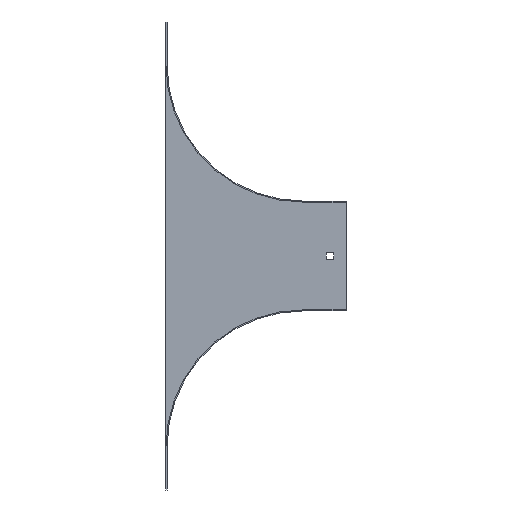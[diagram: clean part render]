
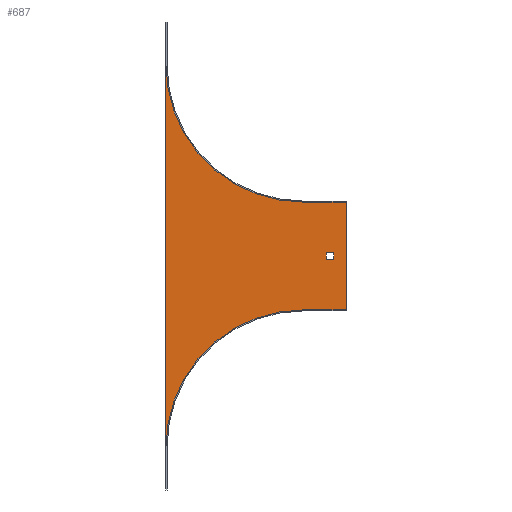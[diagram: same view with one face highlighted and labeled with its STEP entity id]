
A CAD part, front view. The second image highlights one B-rep face of the part: STEP entity #687.
In plain terms, the highlighted planar face has unit normal (0, -1, 0).
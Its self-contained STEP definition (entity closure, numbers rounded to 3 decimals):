
#2 = ORIENTED_EDGE ( 'NONE', *, *, #501, .F. ) ;
#5 = VERTEX_POINT ( 'NONE', #366 ) ;
#13 = EDGE_CURVE ( 'NONE', #684, #5, #578, .T. ) ;
#19 = CARTESIAN_POINT ( 'NONE',  ( 0., -1., -180. ) ) ;
#21 = EDGE_CURVE ( 'NONE', #121, #443, #522, .T. ) ;
#25 = DIRECTION ( 'NONE',  ( 0., 0., -1. ) ) ;
#29 = VERTEX_POINT ( 'NONE', #311 ) ;
#44 = EDGE_CURVE ( 'NONE', #287, #676, #713, .T. ) ;
#52 = VECTOR ( 'NONE', #433, 1000. ) ;
#66 = FACE_BOUND ( 'NONE', #358, .T. ) ;
#68 = DIRECTION ( 'NONE',  ( 0., 0., 1. ) ) ;
#89 = ORIENTED_EDGE ( 'NONE', *, *, #21, .F. ) ;
#94 = ORIENTED_EDGE ( 'NONE', *, *, #348, .F. ) ;
#112 = CARTESIAN_POINT ( 'NONE',  ( 28.5, -1., 0. ) ) ;
#113 = ORIENTED_EDGE ( 'NONE', *, *, #44, .F. ) ;
#121 = VERTEX_POINT ( 'NONE', #208 ) ;
#124 = CARTESIAN_POINT ( 'NONE',  ( 28.5, -1., -174. ) ) ;
#130 = CARTESIAN_POINT ( 'NONE',  ( -127., -1., -394. ) ) ;
#151 = AXIS2_PLACEMENT_3D ( 'NONE', #458, #233, #670 ) ;
#157 = AXIS2_PLACEMENT_3D ( 'NONE', #520, #480, #25 ) ;
#162 = LINE ( 'NONE', #383, #695 ) ;
#180 = ORIENTED_EDGE ( 'NONE', *, *, #612, .F. ) ;
#184 = DIRECTION ( 'NONE',  ( 0., 0., -1. ) ) ;
#187 = LINE ( 'NONE', #353, #313 ) ;
#194 = EDGE_LOOP ( 'NONE', ( #113, #284, #2, #592, #621, #316 ) ) ;
#208 = CARTESIAN_POINT ( 'NONE',  ( 21.5, -1., -180. ) ) ;
#217 = LINE ( 'NONE', #283, #52 ) ;
#229 = EDGE_CURVE ( 'NONE', #676, #690, #409, .T. ) ;
#233 = DIRECTION ( 'NONE',  ( 0., -1., 0. ) ) ;
#254 = EDGE_CURVE ( 'NONE', #690, #684, #678, .T. ) ;
#267 = LINE ( 'NONE', #278, #279 ) ;
#278 = CARTESIAN_POINT ( 'NONE',  ( 21.5, -1., 0. ) ) ;
#279 = VECTOR ( 'NONE', #435, 1000. ) ;
#283 = CARTESIAN_POINT ( 'NONE',  ( 0., -1., -227. ) ) ;
#284 = ORIENTED_EDGE ( 'NONE', *, *, #393, .F. ) ;
#285 = VECTOR ( 'NONE', #597, 1000. ) ;
#287 = VERTEX_POINT ( 'NONE', #296 ) ;
#295 = CARTESIAN_POINT ( 'NONE',  ( -127., -1., -354. ) ) ;
#296 = CARTESIAN_POINT ( 'NONE',  ( 0., -1., -227. ) ) ;
#311 = CARTESIAN_POINT ( 'NONE',  ( 40., -1., -227. ) ) ;
#313 = VECTOR ( 'NONE', #471, 1000. ) ;
#316 = ORIENTED_EDGE ( 'NONE', *, *, #229, .F. ) ;
#348 = EDGE_CURVE ( 'NONE', #618, #655, #187, .T. ) ;
#351 = CARTESIAN_POINT ( 'NONE',  ( -127., -1., 0. ) ) ;
#353 = CARTESIAN_POINT ( 'NONE',  ( 0., -1., -174. ) ) ;
#358 = EDGE_LOOP ( 'NONE', ( #180, #94, #554, #89 ) ) ;
#366 = CARTESIAN_POINT ( 'NONE',  ( 40., -1., -127. ) ) ;
#377 = VECTOR ( 'NONE', #593, 1000. ) ;
#383 = CARTESIAN_POINT ( 'NONE',  ( 40., -1., -126. ) ) ;
#393 = EDGE_CURVE ( 'NONE', #29, #287, #217, .T. ) ;
#409 = LINE ( 'NONE', #130, #646 ) ;
#419 = DIRECTION ( 'NONE',  ( 0., -1., 0. ) ) ;
#425 = DIRECTION ( 'NONE',  ( 1., 0., 0. ) ) ;
#433 = DIRECTION ( 'NONE',  ( -1., 0., 0. ) ) ;
#435 = DIRECTION ( 'NONE',  ( 0., 0., -1. ) ) ;
#443 = VERTEX_POINT ( 'NONE', #496 ) ;
#445 = CARTESIAN_POINT ( 'NONE',  ( 21.5, -1., -174. ) ) ;
#456 = EDGE_CURVE ( 'NONE', #443, #618, #714, .T. ) ;
#458 = CARTESIAN_POINT ( 'NONE',  ( 0., -1., 0. ) ) ;
#470 = CARTESIAN_POINT ( 'NONE',  ( 0., -1., -127. ) ) ;
#471 = DIRECTION ( 'NONE',  ( -1., 0., 0. ) ) ;
#480 = DIRECTION ( 'NONE',  ( 0., -1., 0. ) ) ;
#496 = CARTESIAN_POINT ( 'NONE',  ( 28.5, -1., -180. ) ) ;
#501 = EDGE_CURVE ( 'NONE', #5, #29, #162, .T. ) ;
#516 = CARTESIAN_POINT ( 'NONE',  ( 0., -1., 0. ) ) ;
#519 = AXIS2_PLACEMENT_3D ( 'NONE', #516, #419, #184 ) ;
#520 = CARTESIAN_POINT ( 'NONE',  ( 0., -1., -354. ) ) ;
#521 = FACE_OUTER_BOUND ( 'NONE', #194, .T. ) ;
#522 = LINE ( 'NONE', #19, #377 ) ;
#549 = DIRECTION ( 'NONE',  ( 0., 0., -1. ) ) ;
#554 = ORIENTED_EDGE ( 'NONE', *, *, #456, .F. ) ;
#578 = LINE ( 'NONE', #585, #726 ) ;
#583 = PLANE ( 'NONE',  #519 ) ;
#585 = CARTESIAN_POINT ( 'NONE',  ( 0., -1., -127. ) ) ;
#592 = ORIENTED_EDGE ( 'NONE', *, *, #13, .F. ) ;
#593 = DIRECTION ( 'NONE',  ( 1., 0., 0. ) ) ;
#597 = DIRECTION ( 'NONE',  ( 0., 0., 1. ) ) ;
#612 = EDGE_CURVE ( 'NONE', #655, #121, #267, .T. ) ;
#618 = VERTEX_POINT ( 'NONE', #124 ) ;
#621 = ORIENTED_EDGE ( 'NONE', *, *, #254, .F. ) ;
#646 = VECTOR ( 'NONE', #68, 1000. ) ;
#655 = VERTEX_POINT ( 'NONE', #445 ) ;
#670 = DIRECTION ( 'NONE',  ( 0., 0., -1. ) ) ;
#676 = VERTEX_POINT ( 'NONE', #295 ) ;
#678 = CIRCLE ( 'NONE', #151, 127. ) ;
#684 = VERTEX_POINT ( 'NONE', #470 ) ;
#687 = ADVANCED_FACE ( 'NONE', ( #66, #521 ), #583, .T. ) ;
#690 = VERTEX_POINT ( 'NONE', #351 ) ;
#695 = VECTOR ( 'NONE', #549, 1000. ) ;
#713 = CIRCLE ( 'NONE', #157, 127. ) ;
#714 = LINE ( 'NONE', #112, #285 ) ;
#726 = VECTOR ( 'NONE', #425, 1000. ) ;
